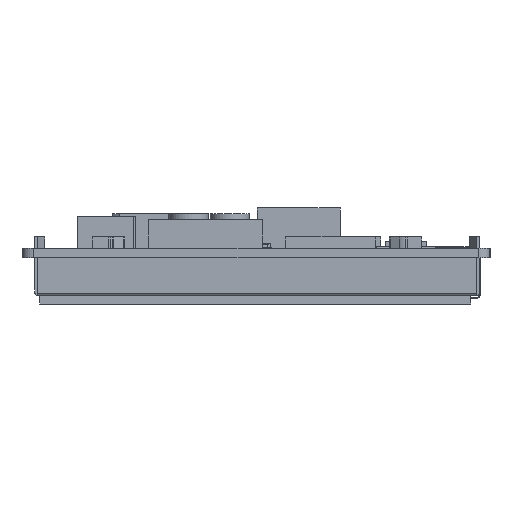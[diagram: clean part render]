
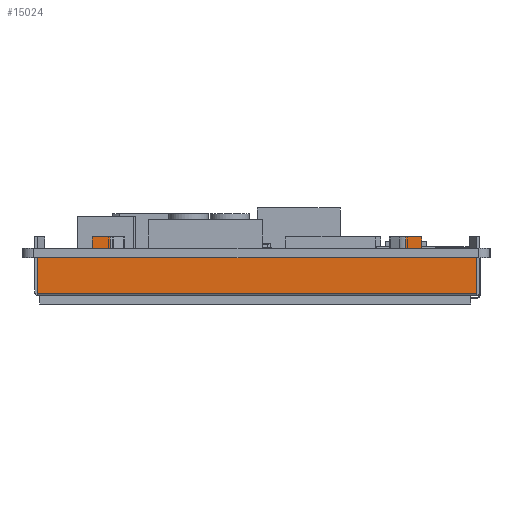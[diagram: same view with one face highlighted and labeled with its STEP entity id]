
A CAD part, left-side view. The second image highlights one B-rep face of the part: STEP entity #15024.
In plain terms, the highlighted planar face has unit normal (-1, 0, 0).
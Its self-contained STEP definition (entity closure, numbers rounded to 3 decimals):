
#6143=LINE('',#52083,#10191);
#6145=LINE('',#52088,#10193);
#6149=LINE('',#52097,#10197);
#6152=LINE('',#52103,#10200);
#6153=LINE('',#52105,#10201);
#6154=LINE('',#52107,#10202);
#6155=LINE('',#52108,#10203);
#6156=LINE('',#52110,#10204);
#6157=LINE('',#52112,#10205);
#6158=LINE('',#52114,#10206);
#6159=LINE('',#52116,#10207);
#6160=LINE('',#52117,#10208);
#6161=LINE('',#52119,#10209);
#6162=LINE('',#52121,#10210);
#6163=LINE('',#52123,#10211);
#6164=LINE('',#52125,#10212);
#10191=VECTOR('',#42747,1.);
#10193=VECTOR('',#42751,1.);
#10197=VECTOR('',#42757,1.);
#10200=VECTOR('',#42762,1.);
#10201=VECTOR('',#42763,1.);
#10202=VECTOR('',#42764,1.);
#10203=VECTOR('',#42765,1.);
#10204=VECTOR('',#42766,1.);
#10205=VECTOR('',#42767,1.);
#10206=VECTOR('',#42768,1.);
#10207=VECTOR('',#42769,1.);
#10208=VECTOR('',#42770,1.);
#10209=VECTOR('',#42771,1.);
#10210=VECTOR('',#42772,1.);
#10211=VECTOR('',#42773,1.);
#10212=VECTOR('',#42774,1.);
#11921=PLANE('',#35658);
#13447=FACE_OUTER_BOUND('',#16953,.T.);
#15024=ADVANCED_FACE('',(#13447),#11921,.F.);
#16953=EDGE_LOOP('',(#24898,#24899,#24900,#24901,#24902,#24903,#24904,#24905,
#24906,#24907,#24908,#24909,#24910,#24911,#24912,#24913));
#24898=ORIENTED_EDGE('',*,*,#33007,.F.);
#24899=ORIENTED_EDGE('',*,*,#33008,.T.);
#24900=ORIENTED_EDGE('',*,*,#33009,.T.);
#24901=ORIENTED_EDGE('',*,*,#33004,.T.);
#24902=ORIENTED_EDGE('',*,*,#33010,.T.);
#24903=ORIENTED_EDGE('',*,*,#33011,.F.);
#24904=ORIENTED_EDGE('',*,*,#33012,.T.);
#24905=ORIENTED_EDGE('',*,*,#33013,.F.);
#24906=ORIENTED_EDGE('',*,*,#33014,.F.);
#24907=ORIENTED_EDGE('',*,*,#33000,.T.);
#24908=ORIENTED_EDGE('',*,*,#33015,.T.);
#24909=ORIENTED_EDGE('',*,*,#33016,.T.);
#24910=ORIENTED_EDGE('',*,*,#33017,.F.);
#24911=ORIENTED_EDGE('',*,*,#33018,.F.);
#24912=ORIENTED_EDGE('',*,*,#33019,.F.);
#24913=ORIENTED_EDGE('',*,*,#32998,.T.);
#28723=VERTEX_POINT('',#52078);
#28725=VERTEX_POINT('',#52082);
#28726=VERTEX_POINT('',#52086);
#28728=VERTEX_POINT('',#52089);
#28730=VERTEX_POINT('',#52095);
#28732=VERTEX_POINT('',#52098);
#28734=VERTEX_POINT('',#52104);
#28735=VERTEX_POINT('',#52106);
#28736=VERTEX_POINT('',#52109);
#28737=VERTEX_POINT('',#52111);
#28738=VERTEX_POINT('',#52113);
#28739=VERTEX_POINT('',#52115);
#28740=VERTEX_POINT('',#52118);
#28741=VERTEX_POINT('',#52120);
#28742=VERTEX_POINT('',#52122);
#28743=VERTEX_POINT('',#52124);
#32998=EDGE_CURVE('',#28723,#28725,#6143,.T.);
#33000=EDGE_CURVE('',#28728,#28726,#6145,.T.);
#33004=EDGE_CURVE('',#28732,#28730,#6149,.T.);
#33007=EDGE_CURVE('',#28734,#28725,#6152,.T.);
#33008=EDGE_CURVE('',#28734,#28735,#6153,.T.);
#33009=EDGE_CURVE('',#28735,#28732,#6154,.T.);
#33010=EDGE_CURVE('',#28730,#28736,#6155,.T.);
#33011=EDGE_CURVE('',#28737,#28736,#6156,.T.);
#33012=EDGE_CURVE('',#28737,#28738,#6157,.T.);
#33013=EDGE_CURVE('',#28739,#28738,#6158,.T.);
#33014=EDGE_CURVE('',#28728,#28739,#6159,.T.);
#33015=EDGE_CURVE('',#28726,#28740,#6160,.T.);
#33016=EDGE_CURVE('',#28740,#28741,#6161,.T.);
#33017=EDGE_CURVE('',#28742,#28741,#6162,.T.);
#33018=EDGE_CURVE('',#28743,#28742,#6163,.T.);
#33019=EDGE_CURVE('',#28723,#28743,#6164,.T.);
#35658=AXIS2_PLACEMENT_3D('',#52126,#42775,#42776);
#42747=DIRECTION('',(0.,1.,0.));
#42751=DIRECTION('',(0.,1.,0.));
#42757=DIRECTION('',(0.,1.,0.));
#42762=DIRECTION('',(0.,0.,1.));
#42763=DIRECTION('',(0.,-1.,0.));
#42764=DIRECTION('',(0.,0.,1.));
#42765=DIRECTION('',(0.,0.,1.));
#42766=DIRECTION('',(0.,-1.,0.));
#42767=DIRECTION('',(0.,0.,-1.));
#42768=DIRECTION('',(0.,-1.,0.));
#42769=DIRECTION('',(0.,0.,1.));
#42770=DIRECTION('',(0.,0.,1.));
#42771=DIRECTION('',(0.,-1.,0.));
#42772=DIRECTION('',(0.,0.,-1.));
#42773=DIRECTION('',(0.,-1.,0.));
#42774=DIRECTION('',(0.,0.,1.));
#42775=DIRECTION('',(1.,0.,0.));
#42776=DIRECTION('',(0.,-1.,0.));
#52078=CARTESIAN_POINT('',(59.66,45.295,-1.6));
#52082=CARTESIAN_POINT('',(59.66,54.82,-1.6));
#52083=CARTESIAN_POINT('',(59.66,-21.2,-1.6));
#52086=CARTESIAN_POINT('',(59.66,42.295,-1.6));
#52088=CARTESIAN_POINT('',(59.66,-21.2,-1.6));
#52089=CARTESIAN_POINT('',(59.66,-8.635,-1.6));
#52095=CARTESIAN_POINT('',(59.66,-11.635,-1.6));
#52097=CARTESIAN_POINT('',(59.66,-21.2,-1.6));
#52098=CARTESIAN_POINT('',(59.66,-21.2,-1.6));
#52103=CARTESIAN_POINT('',(59.66,54.82,-8.1));
#52104=CARTESIAN_POINT('',(59.66,54.82,-7.7));
#52105=CARTESIAN_POINT('',(59.66,-21.2,-7.7));
#52106=CARTESIAN_POINT('',(59.66,-21.2,-7.7));
#52107=CARTESIAN_POINT('',(59.66,-21.2,-8.1));
#52108=CARTESIAN_POINT('',(59.66,-11.635,-1.6));
#52109=CARTESIAN_POINT('',(59.66,-11.635,2.));
#52110=CARTESIAN_POINT('',(59.66,-8.924,2.));
#52111=CARTESIAN_POINT('',(59.66,-8.924,2.));
#52112=CARTESIAN_POINT('',(59.66,-8.924,2.));
#52113=CARTESIAN_POINT('',(59.66,-8.924,0.));
#52114=CARTESIAN_POINT('',(59.66,-8.635,0.));
#52115=CARTESIAN_POINT('',(59.66,-8.635,0.));
#52116=CARTESIAN_POINT('',(59.66,-8.635,-1.6));
#52117=CARTESIAN_POINT('',(59.66,42.295,-1.6));
#52118=CARTESIAN_POINT('',(59.66,42.295,0.));
#52119=CARTESIAN_POINT('',(59.66,45.295,0.));
#52120=CARTESIAN_POINT('',(59.66,42.191,0.));
#52121=CARTESIAN_POINT('',(59.66,42.191,2.));
#52122=CARTESIAN_POINT('',(59.66,42.191,2.));
#52123=CARTESIAN_POINT('',(59.66,45.295,2.));
#52124=CARTESIAN_POINT('',(59.66,45.295,2.));
#52125=CARTESIAN_POINT('',(59.66,45.295,-1.6));
#52126=CARTESIAN_POINT('',(59.66,-21.2,-8.1));
